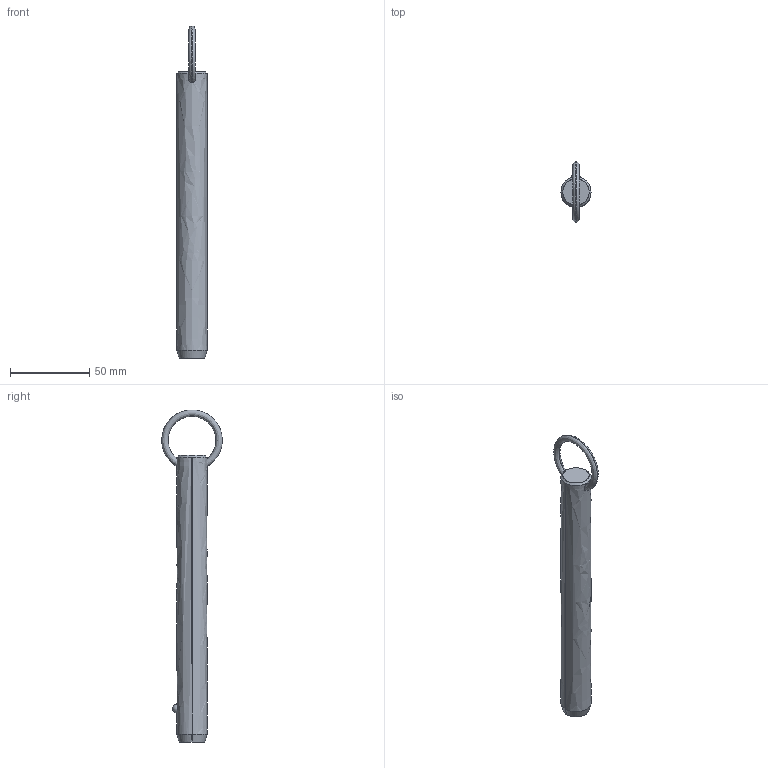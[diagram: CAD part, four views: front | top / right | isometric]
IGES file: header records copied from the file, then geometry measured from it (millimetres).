
Start section: SolidWorks IGES file using analytic representation for surfaces
Global section: file name: C:\Users\liam_\OneDrive\Documents\WORK\Work for WixRoyd\Job Files\J-00019 - Matt Davis CAD Checking\04. CAD Drawings\automotion20190605\P1250.2_v2\P1250.2_v2_20190729_IGES\P1250.075-580.igs; native system: SolidWorks 2017; preprocessor: SolidWorks 2017; author: liam_; date: 190729.235820; units: millimetre
Bounding box: 19 x 38.08 x 209.08 mm (x, y, z)
Surface area: 12306.9 mm2 (no closed solid volume)
Topology: 0 solids, 0 shells, 12 faces, 294 edges, 292 vertices
Faces by surface type: revolution 8, bspline 4
